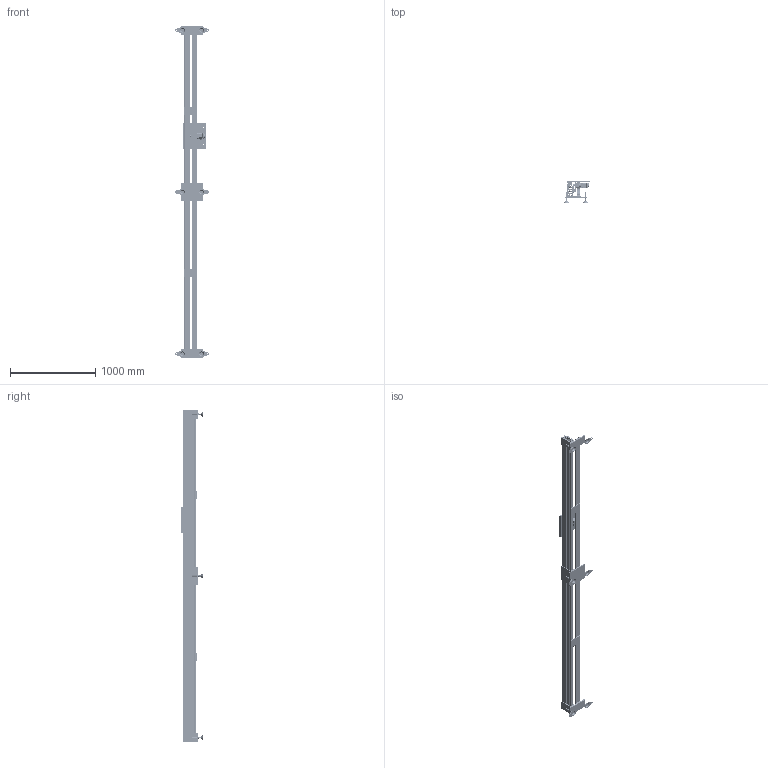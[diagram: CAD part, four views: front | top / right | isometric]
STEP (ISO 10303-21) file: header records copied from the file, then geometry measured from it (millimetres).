
FILE_DESCRIPTION (( 'STEP AP214' ), '1' );
FILE_NAME ('HST45.STEP', '2020-05-20T07:58:27', ( '' ), ( '' ), 'SwSTEP 2.0', 'SolidWorks 2019', '' );
FILE_SCHEMA (( 'AUTOMOTIVE_DESIGN' ));
Length unit declared in the file: millimetre
Products named in the file (1): HST45
Bounding box: 393.85 x 253 x 3900 mm (x, y, z)
Volume: 20784273.5 mm3; surface area: 8020980.2 mm2
Topology: 88 solids, 102 shells, 12571 faces, 34851 edges, 22732 vertices
Faces by surface type: plane 8143, cylinder 2650, bspline 837, cone 813, torus 128
Entity records: 556028 total; most frequent: CARTESIAN_POINT 96115, ORIENTED_EDGE 69326, DIRECTION 63636, EDGE_CURVE 34663, VECTOR 25756, LINE 25756, VERTEX_POINT 22732, AXIS2_PLACEMENT_3D 18940
